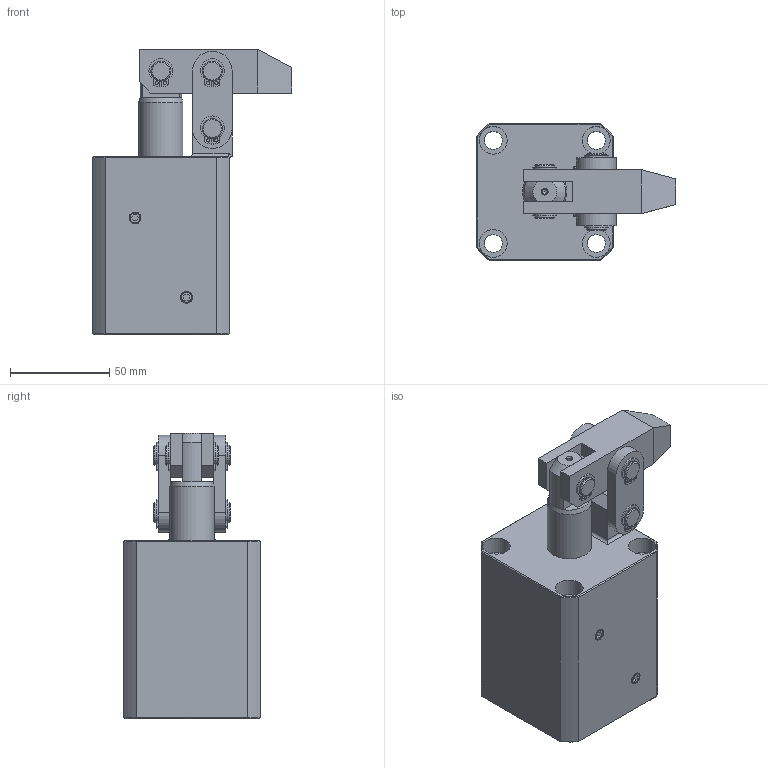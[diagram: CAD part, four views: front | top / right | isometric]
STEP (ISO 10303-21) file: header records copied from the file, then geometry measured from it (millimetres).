
FILE_DESCRIPTION(/* description */ ('Unknown'),/* implementation_level */ '2;1');
FILE_NAME(/* name */ 'HLC-M40-A',/* time_stamp */ '2022-11-23T04:17:39+08:00',/* author */ ('Unknown'),/* organization */ ('Unknown'),/* preprocessor_version */ 'ST-DEVELOPER v16.7',/* originating_system */ 'DEX',/* authorisation */ $);
FILE_SCHEMA (('AUTOMOTIVE_DESIGN {1 0 10303 214 3 1 1}'));
Length unit declared in the file: millimetre
Products named in the file (8): HLC-M40-A; HLC-M40-CYLINDER; HLC-4002-AXLE CENTRE; HLC-40-A; HLC-40-PINªø; HLC-40-PINµu-; HLC-40-乖婂湀; HLC-40-C扣
Assembly tree (14 placements, depth 2):
  HLC-M40-A
    HLC-M40-CYLINDER
    HLC-4002-AXLE CENTRE
    HLC-40-A
    HLC-40-PINªø  x2
    HLC-40-PINµu-
    HLC-40-乖婂湀  x2
    HLC-40-C扣  x6
Bounding box: 100.5 x 69 x 144.2 mm (x, y, z)
Volume: 424537.9 mm3; surface area: 84236.6 mm2
Topology: 14 solids, 14 shells, 287 faces, 664 edges, 433 vertices
Faces by surface type: plane 133, cylinder 123, cone 29, torus 2
Full cylindrical faces by diameter (mm): 1.7 x12, 2.496 x1, 4.1 x2, 5 x2, 9 x4, 9.5 x6, 10 x18, 11 x2, 14 x4, 22.4 x2, 39.5 x1, 40 x1
Entity records: 5034 total; most frequent: DIRECTION 867, CARTESIAN_POINT 857, ORIENTED_EDGE 674, AXIS2_PLACEMENT_3D 351, EDGE_CURVE 337, FACE_BOUND 296, EDGE_LOOP 293, VERTEX_POINT 249
